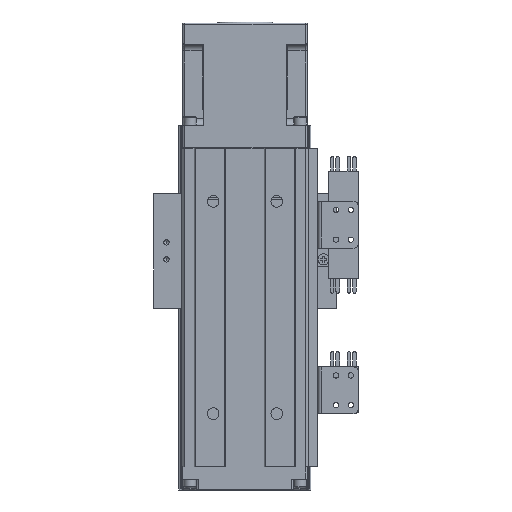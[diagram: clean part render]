
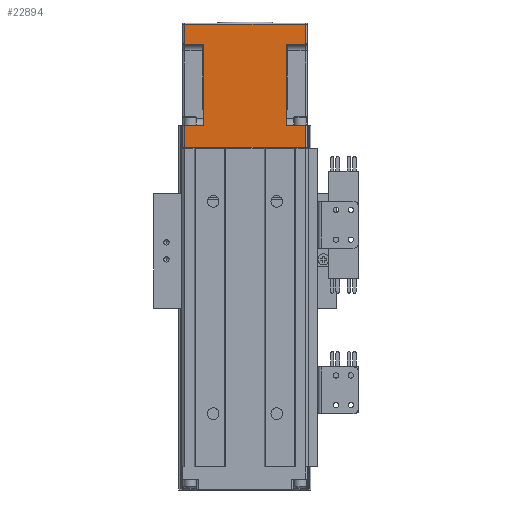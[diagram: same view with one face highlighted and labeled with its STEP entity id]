
A CAD part, front view. The second image highlights one B-rep face of the part: STEP entity #22894.
In plain terms, the highlighted planar face has unit normal (0, -1, 0).
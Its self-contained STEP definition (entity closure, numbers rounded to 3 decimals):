
#772 = ORIENTED_EDGE ( 'NONE', *, *, #29290, .T. ) ;
#982 = CARTESIAN_POINT ( 'NONE',  ( 12.935, 1.398, 86. ) ) ;
#2781 = CARTESIAN_POINT ( 'NONE',  ( 3.935, 1.398, 124. ) ) ;
#4511 = CARTESIAN_POINT ( 'NONE',  ( 12.935, 1.398, 86. ) ) ;
#5592 = VECTOR ( 'NONE', #51412, 1000. ) ;
#6149 = CARTESIAN_POINT ( 'NONE',  ( 51.735, 1.398, 124. ) ) ;
#7755 = DIRECTION ( 'NONE',  ( 0., 0., -1. ) ) ;
#8521 = VECTOR ( 'NONE', #7755, 1000. ) ;
#9424 = LINE ( 'NONE', #14123, #8521 ) ;
#9747 = VECTOR ( 'NONE', #37434, 1000. ) ;
#11030 = VERTEX_POINT ( 'NONE', #2781 ) ;
#11498 = ORIENTED_EDGE ( 'NONE', *, *, #38916, .F. ) ;
#12676 = DIRECTION ( 'NONE',  ( 0., 0., 1. ) ) ;
#14123 = CARTESIAN_POINT ( 'NONE',  ( 3.935, 1.398, 134. ) ) ;
#14234 = VERTEX_POINT ( 'NONE', #48504 ) ;
#14393 = LINE ( 'NONE', #49389, #57278 ) ;
#15668 = LINE ( 'NONE', #35749, #27984 ) ;
#16794 = VECTOR ( 'NONE', #70525, 1000. ) ;
#17144 = DIRECTION ( 'NONE',  ( -1., 0., 0. ) ) ;
#17298 = CARTESIAN_POINT ( 'NONE',  ( 12.935, 1.398, 124. ) ) ;
#17679 = VERTEX_POINT ( 'NONE', #76199 ) ;
#17866 = VERTEX_POINT ( 'NONE', #53001 ) ;
#20313 = EDGE_CURVE ( 'NONE', #46584, #22659, #62783, .T. ) ;
#20334 = DIRECTION ( 'NONE',  ( 0., 0., 1. ) ) ;
#20523 = VECTOR ( 'NONE', #37905, 1000. ) ;
#21830 = EDGE_CURVE ( 'NONE', #52281, #48056, #61102, .T. ) ;
#22148 = AXIS2_PLACEMENT_3D ( 'NONE', #42218, #73407, #12676 ) ;
#22659 = VERTEX_POINT ( 'NONE', #40082 ) ;
#22894 = ADVANCED_FACE ( 'NONE', ( #61725 ), #61157, .F. ) ;
#24240 = VECTOR ( 'NONE', #76985, 1000. ) ;
#25920 = CARTESIAN_POINT ( 'NONE',  ( 51.735, 1.398, 124. ) ) ;
#27108 = CARTESIAN_POINT ( 'NONE',  ( 51.735, 1.398, 86. ) ) ;
#27984 = VECTOR ( 'NONE', #41739, 1000. ) ;
#29290 = EDGE_CURVE ( 'NONE', #43821, #14234, #53959, .T. ) ;
#29759 = EDGE_CURVE ( 'NONE', #43821, #47846, #36693, .T. ) ;
#30123 = ORIENTED_EDGE ( 'NONE', *, *, #77048, .T. ) ;
#30234 = EDGE_LOOP ( 'NONE', ( #40621, #61559, #49565, #11498, #64431, #772, #57157, #45090, #54124, #76700, #61103, #30123 ) ) ;
#30810 = EDGE_CURVE ( 'NONE', #31371, #46584, #45013, .T. ) ;
#31371 = VERTEX_POINT ( 'NONE', #45434 ) ;
#33065 = DIRECTION ( 'NONE',  ( 0., 0., 1. ) ) ;
#33415 = VECTOR ( 'NONE', #20334, 1000. ) ;
#35749 = CARTESIAN_POINT ( 'NONE',  ( 12.935, 1.398, 124. ) ) ;
#36693 = LINE ( 'NONE', #25920, #20523 ) ;
#37434 = DIRECTION ( 'NONE',  ( 1., 0., 0. ) ) ;
#37905 = DIRECTION ( 'NONE',  ( 0., 0., -1. ) ) ;
#38537 = LINE ( 'NONE', #4511, #24240 ) ;
#38916 = EDGE_CURVE ( 'NONE', #47846, #22659, #56049, .T. ) ;
#39888 = EDGE_CURVE ( 'NONE', #48056, #11030, #15668, .T. ) ;
#39998 = VERTEX_POINT ( 'NONE', #44445 ) ;
#40082 = CARTESIAN_POINT ( 'NONE',  ( 60.735, 1.398, 86. ) ) ;
#40490 = EDGE_CURVE ( 'NONE', #17679, #11030, #9424, .T. ) ;
#40621 = ORIENTED_EDGE ( 'NONE', *, *, #78347, .T. ) ;
#41739 = DIRECTION ( 'NONE',  ( -1., 0., 0. ) ) ;
#42218 = CARTESIAN_POINT ( 'NONE',  ( 2.935, 1.398, 134. ) ) ;
#42513 = VECTOR ( 'NONE', #17144, 1000. ) ;
#43821 = VERTEX_POINT ( 'NONE', #6149 ) ;
#44445 = CARTESIAN_POINT ( 'NONE',  ( 3.935, 1.398, 86. ) ) ;
#44603 = DIRECTION ( 'NONE',  ( 0., 0., -1. ) ) ;
#45013 = LINE ( 'NONE', #68416, #9747 ) ;
#45090 = ORIENTED_EDGE ( 'NONE', *, *, #76256, .T. ) ;
#45434 = CARTESIAN_POINT ( 'NONE',  ( 3.935, 1.398, 75.5 ) ) ;
#45589 = CARTESIAN_POINT ( 'NONE',  ( 60.735, 1.398, 134. ) ) ;
#46577 = VECTOR ( 'NONE', #75663, 1000. ) ;
#46584 = VERTEX_POINT ( 'NONE', #77004 ) ;
#47846 = VERTEX_POINT ( 'NONE', #27108 ) ;
#48056 = VERTEX_POINT ( 'NONE', #17298 ) ;
#48504 = CARTESIAN_POINT ( 'NONE',  ( 60.735, 1.398, 124. ) ) ;
#49389 = CARTESIAN_POINT ( 'NONE',  ( 3.935, 1.398, 134. ) ) ;
#49565 = ORIENTED_EDGE ( 'NONE', *, *, #20313, .T. ) ;
#50756 = CARTESIAN_POINT ( 'NONE',  ( 60.735, 1.398, 134. ) ) ;
#51412 = DIRECTION ( 'NONE',  ( 0., 0., 1. ) ) ;
#52281 = VERTEX_POINT ( 'NONE', #982 ) ;
#53001 = CARTESIAN_POINT ( 'NONE',  ( 60.735, 1.398, 133.5 ) ) ;
#53959 = LINE ( 'NONE', #58017, #16794 ) ;
#54124 = ORIENTED_EDGE ( 'NONE', *, *, #40490, .T. ) ;
#56049 = LINE ( 'NONE', #62910, #46577 ) ;
#57157 = ORIENTED_EDGE ( 'NONE', *, *, #61511, .T. ) ;
#57278 = VECTOR ( 'NONE', #44603, 1000. ) ;
#57369 = LINE ( 'NONE', #50756, #33415 ) ;
#57639 = CARTESIAN_POINT ( 'NONE',  ( 12.935, 1.398, 124. ) ) ;
#58017 = CARTESIAN_POINT ( 'NONE',  ( 51.735, 1.398, 124. ) ) ;
#60635 = LINE ( 'NONE', #78451, #42513 ) ;
#61102 = LINE ( 'NONE', #57639, #70618 ) ;
#61103 = ORIENTED_EDGE ( 'NONE', *, *, #21830, .F. ) ;
#61157 = PLANE ( 'NONE',  #22148 ) ;
#61511 = EDGE_CURVE ( 'NONE', #14234, #17866, #57369, .T. ) ;
#61559 = ORIENTED_EDGE ( 'NONE', *, *, #30810, .T. ) ;
#61725 = FACE_OUTER_BOUND ( 'NONE', #30234, .T. ) ;
#62783 = LINE ( 'NONE', #45589, #5592 ) ;
#62910 = CARTESIAN_POINT ( 'NONE',  ( 51.735, 1.398, 86. ) ) ;
#64431 = ORIENTED_EDGE ( 'NONE', *, *, #29759, .F. ) ;
#68416 = CARTESIAN_POINT ( 'NONE',  ( 60.735, 1.398, 75.5 ) ) ;
#70525 = DIRECTION ( 'NONE',  ( 1., 0., 0. ) ) ;
#70618 = VECTOR ( 'NONE', #33065, 1000. ) ;
#73407 = DIRECTION ( 'NONE',  ( 0., 1., 0. ) ) ;
#75663 = DIRECTION ( 'NONE',  ( 1., 0., 0. ) ) ;
#76199 = CARTESIAN_POINT ( 'NONE',  ( 3.935, 1.398, 133.5 ) ) ;
#76256 = EDGE_CURVE ( 'NONE', #17866, #17679, #60635, .T. ) ;
#76700 = ORIENTED_EDGE ( 'NONE', *, *, #39888, .F. ) ;
#76985 = DIRECTION ( 'NONE',  ( -1., 0., 0. ) ) ;
#77004 = CARTESIAN_POINT ( 'NONE',  ( 60.735, 1.398, 75.5 ) ) ;
#77048 = EDGE_CURVE ( 'NONE', #52281, #39998, #38537, .T. ) ;
#78347 = EDGE_CURVE ( 'NONE', #39998, #31371, #14393, .T. ) ;
#78451 = CARTESIAN_POINT ( 'NONE',  ( 2.935, 1.398, 133.5 ) ) ;
